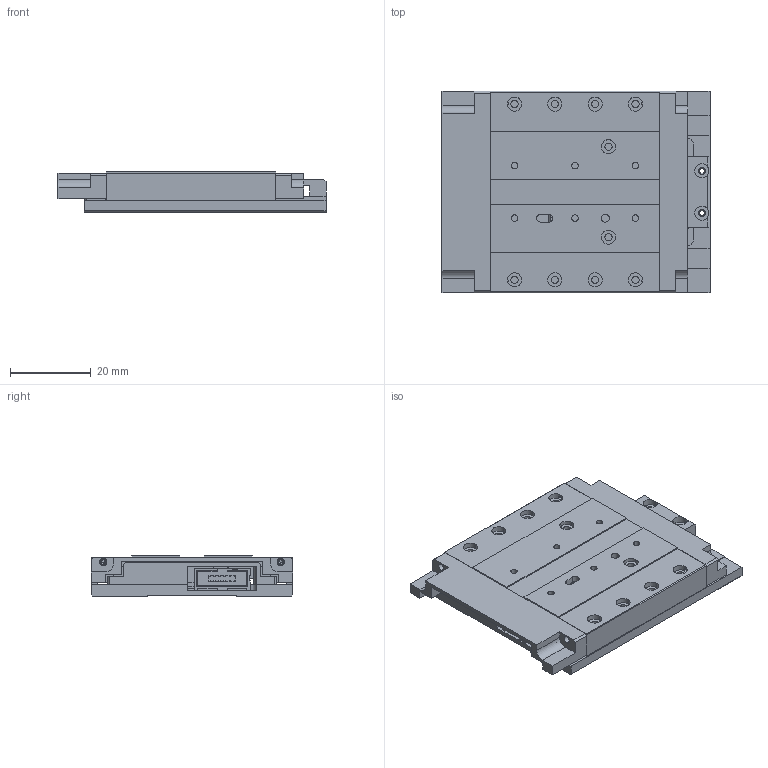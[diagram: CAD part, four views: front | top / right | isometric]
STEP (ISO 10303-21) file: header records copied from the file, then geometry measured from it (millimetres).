
FILE_DESCRIPTION (( 'STEP AP203' ), '1' );
FILE_NAME ('SLA10-010-5X-1_D STEP.STEP', '2018-03-09T21:49:25', ( '' ), ( '' ), 'SwSTEP 2.0', 'SolidWorks 2018', '' );
FILE_SCHEMA (( 'CONFIG_CONTROL_DESIGN' ));
Length unit declared in the file: millimetre
Products named in the file (8): 14728-11_D; 775074-00_A; SLA10-010-5X-1_D STEP; 23649-11_B; 23649-12_B; 14728-10_D; 12603-10_C; 230085-03_A
Assembly tree (7 placements, depth 2):
  SLA10-010-5X-1_D STEP
    23649-11_B
    23649-12_B
    14728-10_D
    12603-10_C
    230085-03_A
    14728-11_D
    775074-00_A
Bounding box: 66.5 x 50 x 10 mm (x, y, z)
Volume: 14909.5 mm3; surface area: 19934.3 mm2
Topology: 9 solids, 9 shells, 669 faces, 1858 edges, 1223 vertices
Faces by surface type: plane 425, cylinder 212, cone 32
Entity records: 22490 total; most frequent: CARTESIAN_POINT 3904, ORIENTED_EDGE 3716, DIRECTION 3640, EDGE_CURVE 1858, VECTOR 1378, LINE 1378, VERTEX_POINT 1223, AXIS2_PLACEMENT_3D 1131
